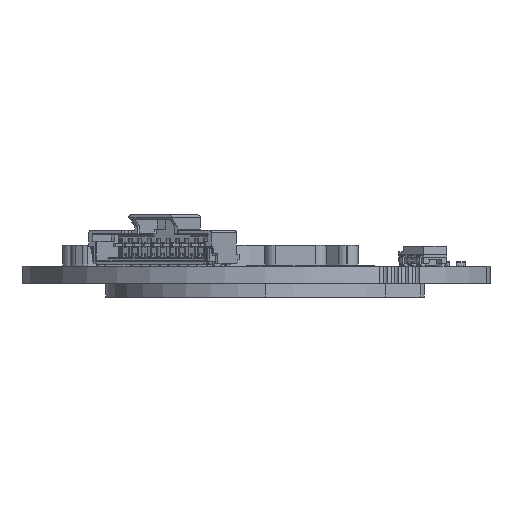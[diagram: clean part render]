
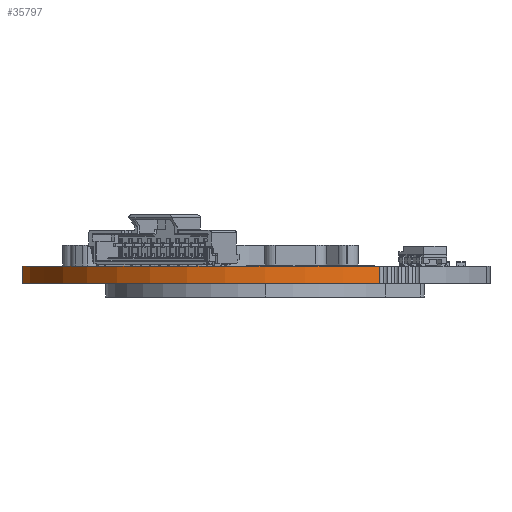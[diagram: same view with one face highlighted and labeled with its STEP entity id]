
A CAD part, left-side view. The second image highlights one B-rep face of the part: STEP entity #35797.
In plain terms, the highlighted cylindrical face has radius 22.4 mm (diameter 44.8 mm), a partial arc.
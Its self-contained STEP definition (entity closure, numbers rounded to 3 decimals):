
#3369 = CARTESIAN_POINT ( 'NONE',  ( -2.156, 22.296, -1.6 ) ) ;
#17219 = DIRECTION ( 'NONE',  ( 0., 0., 1. ) ) ;
#18215 = DIRECTION ( 'NONE',  ( 0., 0., 1. ) ) ;
#19093 = VERTEX_POINT ( 'NONE', #84323 ) ;
#20168 = EDGE_CURVE ( 'NONE', #38377, #23819, #64630, .T. ) ;
#20569 = DIRECTION ( 'NONE',  ( 0.42, -0.908, 0. ) ) ;
#22512 = DIRECTION ( 'NONE',  ( 0.42, -0.908, 0. ) ) ;
#22631 = CARTESIAN_POINT ( 'NONE',  ( -19.782, -10.508, 0. ) ) ;
#23819 = VERTEX_POINT ( 'NONE', #22631 ) ;
#26229 = DIRECTION ( 'NONE',  ( 0.42, -0.908, 0. ) ) ;
#34143 = CIRCLE ( 'NONE', #84800, 22.4 ) ;
#34373 = FACE_OUTER_BOUND ( 'NONE', #46664, .T. ) ;
#35105 = VECTOR ( 'NONE', #17219, 1000. ) ;
#35797 = ADVANCED_FACE ( 'NONE', ( #34373 ), #42068, .T. ) ;
#36337 = CIRCLE ( 'NONE', #73140, 22.4 ) ;
#38377 = VERTEX_POINT ( 'NONE', #69811 ) ;
#40795 = CARTESIAN_POINT ( 'NONE',  ( -19.782, -10.508, -1.6 ) ) ;
#42068 = CYLINDRICAL_SURFACE ( 'NONE', #49420, 22.4 ) ;
#46098 = EDGE_CURVE ( 'NONE', #94887, #23819, #36337, .T. ) ;
#46664 = EDGE_LOOP ( 'NONE', ( #80466, #77478, #93647, #53168 ) ) ;
#46956 = EDGE_CURVE ( 'NONE', #19093, #94887, #47594, .T. ) ;
#47594 = LINE ( 'NONE', #3369, #35105 ) ;
#49420 = AXIS2_PLACEMENT_3D ( 'NONE', #78467, #62264, #26229 ) ;
#51395 = DIRECTION ( 'NONE',  ( 0., 0., 1. ) ) ;
#53168 = ORIENTED_EDGE ( 'NONE', *, *, #46956, .F. ) ;
#53296 = CARTESIAN_POINT ( 'NONE',  ( 0., 0., 0. ) ) ;
#62264 = DIRECTION ( 'NONE',  ( 0., 0., -1. ) ) ;
#64630 = LINE ( 'NONE', #40795, #68713 ) ;
#68713 = VECTOR ( 'NONE', #18215, 1000. ) ;
#69811 = CARTESIAN_POINT ( 'NONE',  ( -19.782, -10.508, -1.6 ) ) ;
#72125 = CARTESIAN_POINT ( 'NONE',  ( -2.156, 22.296, 0. ) ) ;
#73140 = AXIS2_PLACEMENT_3D ( 'NONE', #53296, #88298, #22512 ) ;
#77478 = ORIENTED_EDGE ( 'NONE', *, *, #20168, .T. ) ;
#78467 = CARTESIAN_POINT ( 'NONE',  ( 0., 0., -1.6 ) ) ;
#80466 = ORIENTED_EDGE ( 'NONE', *, *, #90115, .T. ) ;
#84323 = CARTESIAN_POINT ( 'NONE',  ( -2.156, 22.296, -1.6 ) ) ;
#84800 = AXIS2_PLACEMENT_3D ( 'NONE', #86367, #51395, #20569 ) ;
#86367 = CARTESIAN_POINT ( 'NONE',  ( 0., 0., -1.6 ) ) ;
#88298 = DIRECTION ( 'NONE',  ( 0., 0., 1. ) ) ;
#90115 = EDGE_CURVE ( 'NONE', #19093, #38377, #34143, .T. ) ;
#93647 = ORIENTED_EDGE ( 'NONE', *, *, #46098, .F. ) ;
#94887 = VERTEX_POINT ( 'NONE', #72125 ) ;
